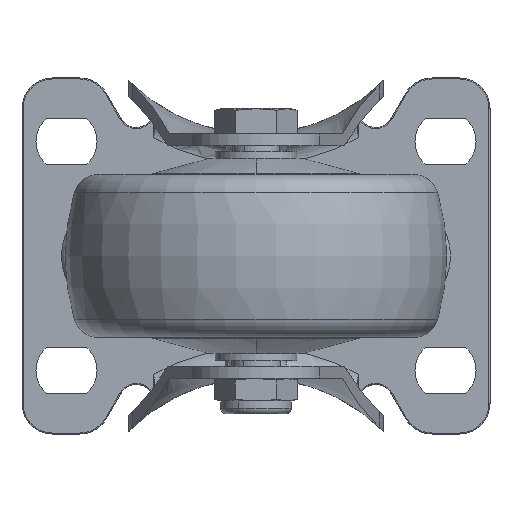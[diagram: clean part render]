
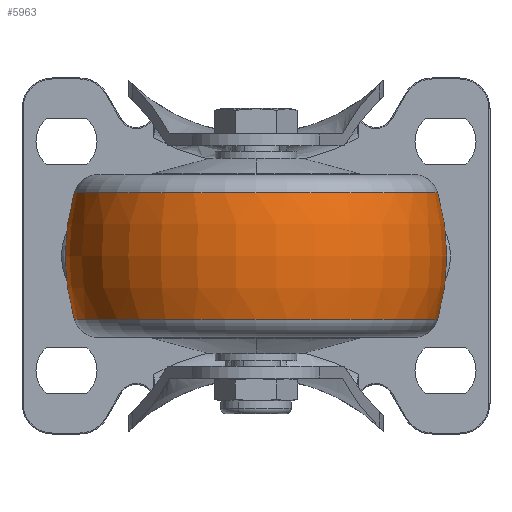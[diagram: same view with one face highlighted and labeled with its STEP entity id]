
A CAD part, front view. The second image highlights one B-rep face of the part: STEP entity #5963.
In plain terms, the highlighted toroidal (fillet/blend) face has major radius 6.667 mm and minor radius 44.167 mm.
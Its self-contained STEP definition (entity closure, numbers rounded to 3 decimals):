
#397 = DIRECTION ( 'NONE',  ( 0., 0., -1. ) ) ;
#499 = VERTEX_POINT ( 'NONE', #1598 ) ;
#731 = DIRECTION ( 'NONE',  ( 0., 1., 0. ) ) ;
#790 = CARTESIAN_POINT ( 'NONE',  ( -12.404, 0., 35.722 ) ) ;
#1026 = VERTEX_POINT ( 'NONE', #3254 ) ;
#1339 = DIRECTION ( 'NONE',  ( 0., 0., 1. ) ) ;
#1542 = AXIS2_PLACEMENT_3D ( 'NONE', #5502, #731, #9229 ) ;
#1598 = CARTESIAN_POINT ( 'NONE',  ( -12.404, 0., -35.722 ) ) ;
#1776 = DIRECTION ( 'NONE',  ( 0., 0., 1. ) ) ;
#1806 = AXIS2_PLACEMENT_3D ( 'NONE', #13953, #12888, #15253 ) ;
#2072 = CIRCLE ( 'NONE', #1806, 35.722 ) ;
#2291 = TOROIDAL_SURFACE ( 'NONE', #12171, -6.667, 44.167 ) ;
#2365 = EDGE_CURVE ( 'NONE', #9509, #499, #15829, .T. ) ;
#3157 = FACE_OUTER_BOUND ( 'NONE', #3953, .T. ) ;
#3254 = CARTESIAN_POINT ( 'NONE',  ( 12.404, 0., 35.722 ) ) ;
#3953 = EDGE_LOOP ( 'NONE', ( #10148, #5511, #7912, #14677 ) ) ;
#4768 = CARTESIAN_POINT ( 'NONE',  ( -12.404, 0., 0. ) ) ;
#5502 = CARTESIAN_POINT ( 'NONE',  ( 0., 0., 6.667 ) ) ;
#5511 = ORIENTED_EDGE ( 'NONE', *, *, #9842, .T. ) ;
#5726 = AXIS2_PLACEMENT_3D ( 'NONE', #7771, #12725, #397 ) ;
#5748 = VERTEX_POINT ( 'NONE', #790 ) ;
#5963 = ADVANCED_FACE ( 'NONE', ( #3157 ), #2291, .T. ) ;
#7771 = CARTESIAN_POINT ( 'NONE',  ( 0., 0., -6.667 ) ) ;
#7912 = ORIENTED_EDGE ( 'NONE', *, *, #10524, .T. ) ;
#8295 = DIRECTION ( 'NONE',  ( -1., 0., 0. ) ) ;
#8578 = CIRCLE ( 'NONE', #15575, 35.722 ) ;
#8600 = DIRECTION ( 'NONE',  ( -1., 0., 0. ) ) ;
#9229 = DIRECTION ( 'NONE',  ( 0., 0., 1. ) ) ;
#9334 = CARTESIAN_POINT ( 'NONE',  ( 12.404, 0., -35.722 ) ) ;
#9494 = CARTESIAN_POINT ( 'NONE',  ( 0., 0., 0. ) ) ;
#9509 = VERTEX_POINT ( 'NONE', #9334 ) ;
#9746 = EDGE_CURVE ( 'NONE', #499, #5748, #8578, .T. ) ;
#9842 = EDGE_CURVE ( 'NONE', #9509, #1026, #2072, .T. ) ;
#9869 = CIRCLE ( 'NONE', #5726, 44.167 ) ;
#10148 = ORIENTED_EDGE ( 'NONE', *, *, #2365, .F. ) ;
#10524 = EDGE_CURVE ( 'NONE', #1026, #5748, #9869, .T. ) ;
#12171 = AXIS2_PLACEMENT_3D ( 'NONE', #9494, #8295, #1776 ) ;
#12725 = DIRECTION ( 'NONE',  ( 0., -1., 0. ) ) ;
#12888 = DIRECTION ( 'NONE',  ( -1., 0., 0. ) ) ;
#13953 = CARTESIAN_POINT ( 'NONE',  ( 12.404, 0., 0. ) ) ;
#14677 = ORIENTED_EDGE ( 'NONE', *, *, #9746, .F. ) ;
#15253 = DIRECTION ( 'NONE',  ( 0., 0., 1. ) ) ;
#15575 = AXIS2_PLACEMENT_3D ( 'NONE', #4768, #8600, #1339 ) ;
#15829 = CIRCLE ( 'NONE', #1542, 44.167 ) ;
